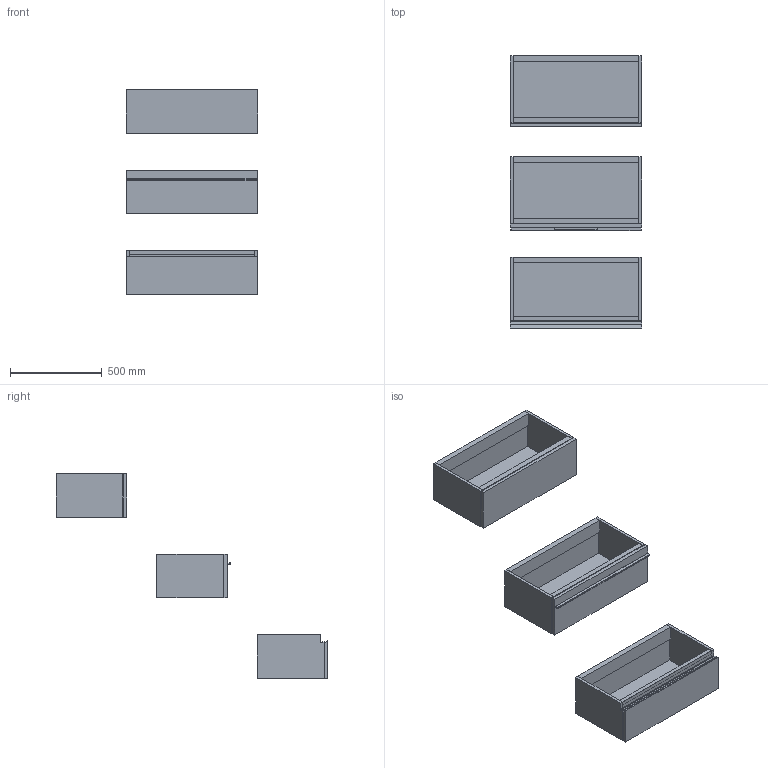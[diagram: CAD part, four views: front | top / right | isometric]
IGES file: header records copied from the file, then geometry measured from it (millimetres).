
Start section: Data from Parasolid IGES Translator 19.0.9, Copyright(c) 2006 Siemens PL M Software. All Rights Reserved.
Global section: file name: noorth-SI-H 24 D 38,8 W 72_8238.igs; native system: By Siemens PLM Incorporated; preprocessor: XPlus GENERIC/IGES 19.0.9; author: Noname; organization: Noname; date: 20200530.103941; units: metre
Bounding box: 720 x 1485.07 x 1120.01 mm (x, y, z)
Volume: 37005786.6 mm3; surface area: 5510009.2 mm2
Topology: 23 solids, 23 shells, 196 faces, 418 edges, 258 vertices
Faces by surface type: plane 152, extrusion 16, bspline 16, cylinder 12
